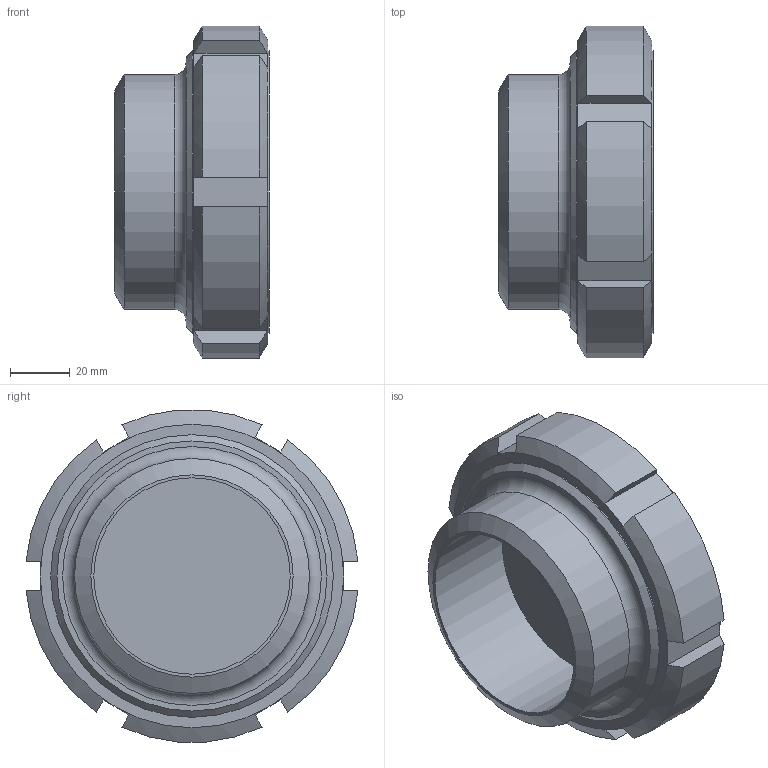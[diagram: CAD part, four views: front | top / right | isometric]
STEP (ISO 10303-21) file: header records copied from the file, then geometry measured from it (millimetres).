
FILE_DESCRIPTION(/* description */ ('Unknown'),/* implementation_level */ '2;1');
FILE_NAME(/* name */ '0207.001.38_01',/* time_stamp */ '2016-01-18T10:08:28+01:00',/* author */ ('Unknown'),/* organization */ ('Unknown'),/* preprocessor_version */ 'ST-DEVELOPER v16.7',/* originating_system */ 'DEX',/* authorisation */ $);
FILE_SCHEMA (('CONFIG_CONTROL_DESIGN'));
Length unit declared in the file: millimetre
Products named in the file (6): 0207.001.38_01; 4019.012.38; 0863.074.38_01; 1775.033.38; 5684.007.38; 8412.006.38
Assembly tree (5 placements, depth 2):
  0207.001.38_01
    4019.012.38
    0863.074.38_01
    1775.033.38
    5684.007.38
    8412.006.38
Bounding box: 52 x 111.55 x 111.58 mm (x, y, z)
Volume: 226775.6 mm3; surface area: 79853.1 mm2
Topology: 5 solids, 5 shells, 76 faces, 161 edges, 100 vertices
Faces by surface type: plane 33, cylinder 20, cone 20, torus 3
Full cylindrical faces by diameter (mm): 65 x2, 66 x1, 70 x1, 71 x1, 79 x1, 80 x1, 81 x2, 91 x1, 91.19 x1, 95 x3
Entity records: 2230 total; most frequent: CARTESIAN_POINT 578, DIRECTION 312, ORIENTED_EDGE 268, AXIS2_PLACEMENT_3D 144, EDGE_CURVE 134, EDGE_LOOP 114, FACE_BOUND 114, VERTEX_POINT 98
